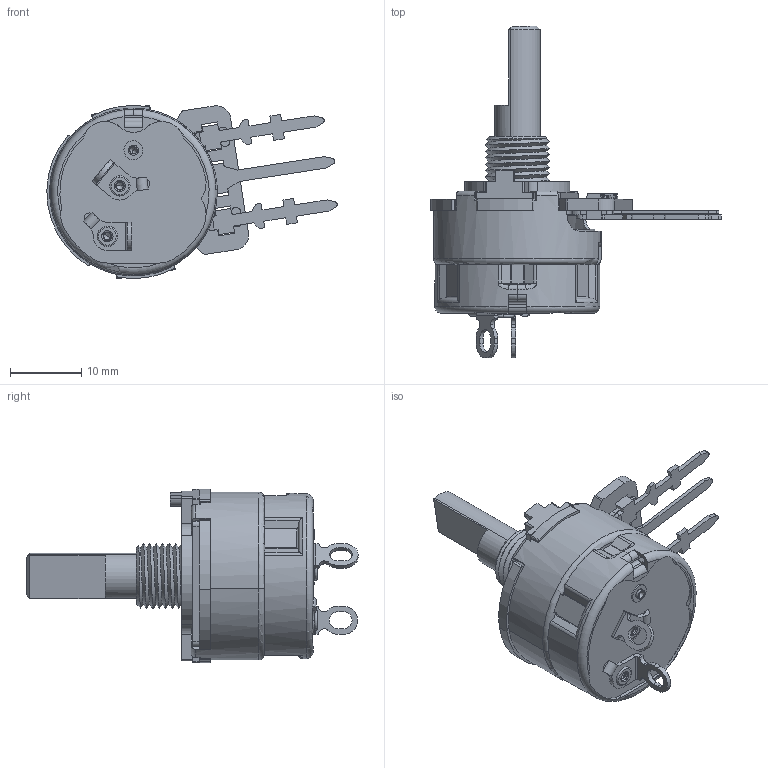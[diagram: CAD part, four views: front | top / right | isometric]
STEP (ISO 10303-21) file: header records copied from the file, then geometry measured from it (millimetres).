
FILE_DESCRIPTION (( 'STEP AP214' ), '1' );
FILE_NAME ('450YMM4F504B1C1.STEP', '2019-05-27T01:16:14', ( '' ), ( '' ), 'SwSTEP 2.0', 'SolidWorks 2019', '' );
FILE_SCHEMA (( 'AUTOMOTIVE_DESIGN' ));
Length unit declared in the file: millimetre
Products named in the file (17): Cover_GK_4_Embossed Operatopm; 450D-5 for Y450AEDF-7; SwitchBaseAssembling_Dummy GC-42T; MP45C31; 450YMM4F504B1C1; Simple TGC-39; 450-40-019-02-53_2-45Q-T; Pivot_G_B_5C_RollOver Operation; 7F-G45K-328-190; Y450AEDF-7 (use 450-01-T08); G-D-1_G_D_1; Switch BaseG_A_19; Counter RivotGC_C_1G_RollOver Operation; 450 element; 450F-6 for Y450AEDF-7; G-D-1_G_E_1; 450-01-T08-30-01G
Assembly tree (18 placements, depth 4):
  450YMM4F504B1C1
    Simple TGC-39
      Cover_GK_4_Embossed Operatopm
      SwitchBaseAssembling_Dummy GC-42T
        Switch BaseG_A_19
        G-D-1_G_D_1
        G-D-1_G_E_1
        Counter RivotGC_C_1G_RollOver Operation  x2
        Pivot_G_B_5C_RollOver Operation
    450-40-019-02-53_2-45Q-T
    Y450AEDF-7 (use 450-01-T08)
      450 element
      450F-6 for Y450AEDF-7  x2
      450D-5 for Y450AEDF-7
      450-01-T08-30-01G
    MP45C31
    7F-G45K-328-190
Bounding box: 40.79 x 46.63 x 24.33 mm (x, y, z)
Volume: 4303.7 mm3; surface area: 9470.1 mm2
Topology: 15 solids, 15 shells, 1024 faces, 2785 edges, 1781 vertices
Faces by surface type: plane 509, cylinder 371, torus 80, cone 37, sphere 14, bspline 13
Entity records: 31993 total; most frequent: CARTESIAN_POINT 7257, DIRECTION 5179, ORIENTED_EDGE 5054, EDGE_CURVE 2527, AXIS2_PLACEMENT_3D 1879, VERTEX_POINT 1631, VECTOR 1421, LINE 1421
